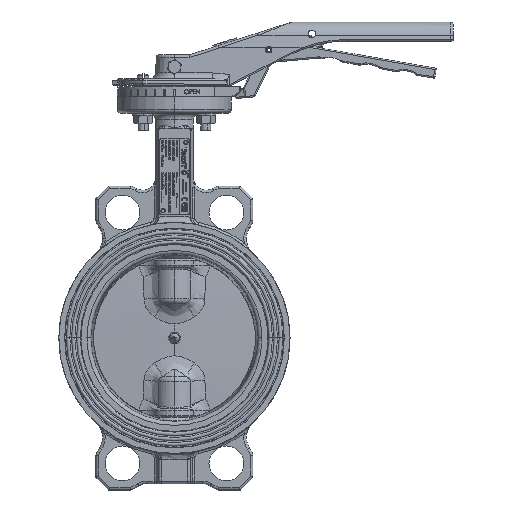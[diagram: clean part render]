
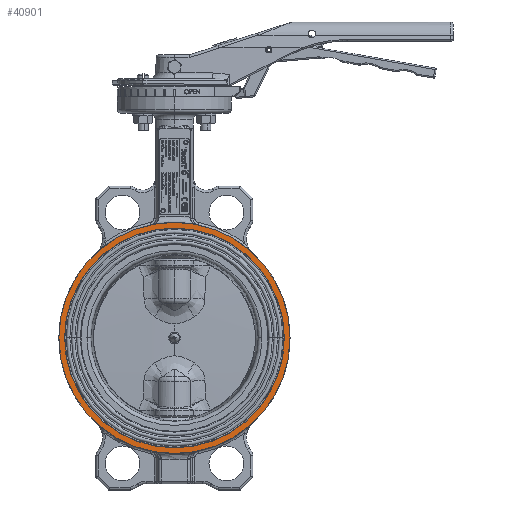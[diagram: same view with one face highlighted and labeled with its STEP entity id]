
A CAD part, top view. The second image highlights one B-rep face of the part: STEP entity #40901.
In plain terms, the highlighted planar face has unit normal (0, 0, 1).
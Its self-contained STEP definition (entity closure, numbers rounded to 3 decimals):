
#7061 = CARTESIAN_POINT ( 'NONE',  ( 0., 0., 27.25 ) ) ;
#7064 = DIRECTION ( 'NONE',  ( 0., 0., 1. ) ) ;
#7068 = DIRECTION ( 'NONE',  ( 1., 0., 0. ) ) ;
#22499 = ORIENTED_EDGE ( 'NONE', *, *, #80304, .T. ) ;
#22528 = ORIENTED_EDGE ( 'NONE', *, *, #80877, .T. ) ;
#22585 = ORIENTED_EDGE ( 'NONE', *, *, #79906, .F. ) ;
#22605 = ORIENTED_EDGE ( 'NONE', *, *, #78798, .F. ) ;
#40654 = CARTESIAN_POINT ( 'NONE',  ( 0., -86.75, 27.25 ) ) ;
#40678 = FACE_OUTER_BOUND ( 'NONE', #43542, .T. ) ;
#40689 = FACE_BOUND ( 'NONE', #43540, .T. ) ;
#40694 = PLANE ( 'NONE',  #61280 ) ;
#40699 = DIRECTION ( 'NONE',  ( 0., 0., -1. ) ) ;
#40702 = DIRECTION ( 'NONE',  ( -1., 0., 0. ) ) ;
#40901 = ADVANCED_FACE ( 'NONE', ( #40689, #40678 ), #40694, .F. ) ;
#43540 = EDGE_LOOP ( 'NONE', ( #22605, #22585 ) ) ;
#43542 = EDGE_LOOP ( 'NONE', ( #22499, #22528 ) ) ;
#61280 = AXIS2_PLACEMENT_3D ( 'NONE', #40654, #40699, #40702 ) ;
#74759 = VERTEX_POINT ( 'NONE', #161854 ) ;
#74788 = VERTEX_POINT ( 'NONE', #161924 ) ;
#78798 = EDGE_CURVE ( 'NONE', #74788, #74759, #137292, .T. ) ;
#79906 = EDGE_CURVE ( 'NONE', #74759, #74788, #138922, .T. ) ;
#80304 = EDGE_CURVE ( 'NONE', #135469, #135713, #139470, .T. ) ;
#80877 = EDGE_CURVE ( 'NONE', #135713, #135469, #140064, .T. ) ;
#119813 = CARTESIAN_POINT ( 'NONE',  ( 91.25, 0., 27.25 ) ) ;
#119987 = CARTESIAN_POINT ( 'NONE',  ( -91.25, 0., 27.25 ) ) ;
#135469 = VERTEX_POINT ( 'NONE', #119813 ) ;
#135713 = VERTEX_POINT ( 'NONE', #119987 ) ;
#137292 = CIRCLE ( 'NONE', #137303, 86.75 ) ;
#137303 = AXIS2_PLACEMENT_3D ( 'NONE', #173010, #173012, #173014 ) ;
#138922 = CIRCLE ( 'NONE', #138928, 86.75 ) ;
#138928 = AXIS2_PLACEMENT_3D ( 'NONE', #154648, #154649, #154650 ) ;
#139470 = CIRCLE ( 'NONE', #139474, 91.25 ) ;
#139474 = AXIS2_PLACEMENT_3D ( 'NONE', #155366, #155367, #155368 ) ;
#140064 = CIRCLE ( 'NONE', #140070, 91.25 ) ;
#140070 = AXIS2_PLACEMENT_3D ( 'NONE', #7061, #7064, #7068 ) ;
#154648 = CARTESIAN_POINT ( 'NONE',  ( 0., 0., 27.25 ) ) ;
#154649 = DIRECTION ( 'NONE',  ( 0., 0., 1. ) ) ;
#154650 = DIRECTION ( 'NONE',  ( 1., 0., 0. ) ) ;
#155366 = CARTESIAN_POINT ( 'NONE',  ( 0., 0., 27.25 ) ) ;
#155367 = DIRECTION ( 'NONE',  ( 0., 0., 1. ) ) ;
#155368 = DIRECTION ( 'NONE',  ( 1., 0., 0. ) ) ;
#161854 = CARTESIAN_POINT ( 'NONE',  ( -86.75, 0., 27.25 ) ) ;
#161924 = CARTESIAN_POINT ( 'NONE',  ( 86.75, 0., 27.25 ) ) ;
#173010 = CARTESIAN_POINT ( 'NONE',  ( 0., 0., 27.25 ) ) ;
#173012 = DIRECTION ( 'NONE',  ( 0., 0., 1. ) ) ;
#173014 = DIRECTION ( 'NONE',  ( 1., 0., 0. ) ) ;
